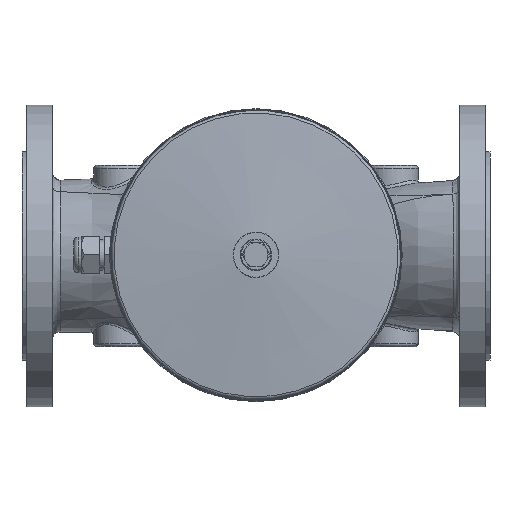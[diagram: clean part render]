
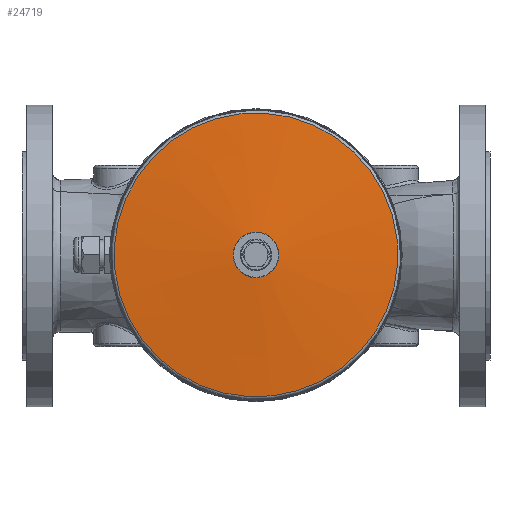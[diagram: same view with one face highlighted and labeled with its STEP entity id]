
A CAD part, top view. The second image highlights one B-rep face of the part: STEP entity #24719.
In plain terms, the highlighted conical face has half-angle 84.937 degrees and reference radius 55.344 mm.
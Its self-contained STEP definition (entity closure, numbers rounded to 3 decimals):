
#24657=CARTESIAN_POINT('',(-93.813,5.741,423.052));
#24658=VERTEX_POINT('',#24657);
#24659=CARTESIAN_POINT('',(0.,0.,423.052));
#24660=DIRECTION('',(0.,0.,-1.));
#24661=DIRECTION('',(0.998,-0.061,0.));
#24662=AXIS2_PLACEMENT_3D('',#24659,#24660,#24661);
#24663=CIRCLE('',#24662,93.988);
#24664=EDGE_CURVE('',#24658,#24658,#24663,.T.);
#24700=CARTESIAN_POINT('',(0.,0.,426.476));
#24701=DIRECTION('',(0.,0.,-1.0));
#24702=DIRECTION('',(-0.998,0.061,0.));
#24703=AXIS2_PLACEMENT_3D('',#24700,#24701,#24702);
#24704=CONICAL_SURFACE('',#24703,55.344,84.937);
#24705=ORIENTED_EDGE('',*,*,#24664,.F.);
#24706=EDGE_LOOP('',(#24705));
#24707=FACE_OUTER_BOUND('',#24706,.T.);
#24708=CARTESIAN_POINT('',(-15.06,0.922,430.042));
#24709=VERTEX_POINT('',#24708);
#24710=CARTESIAN_POINT('',(0.,0.,430.042));
#24711=DIRECTION('',(0.,0.,1.));
#24712=DIRECTION('',(0.998,-0.061,0.));
#24713=AXIS2_PLACEMENT_3D('',#24710,#24711,#24712);
#24714=CIRCLE('',#24713,15.088);
#24715=EDGE_CURVE('',#24709,#24709,#24714,.T.);
#24716=ORIENTED_EDGE('',*,*,#24715,.F.);
#24717=EDGE_LOOP('',(#24716));
#24718=FACE_BOUND('',#24717,.T.);
#24719=ADVANCED_FACE('',(#24707,#24718),#24704,.T.);
